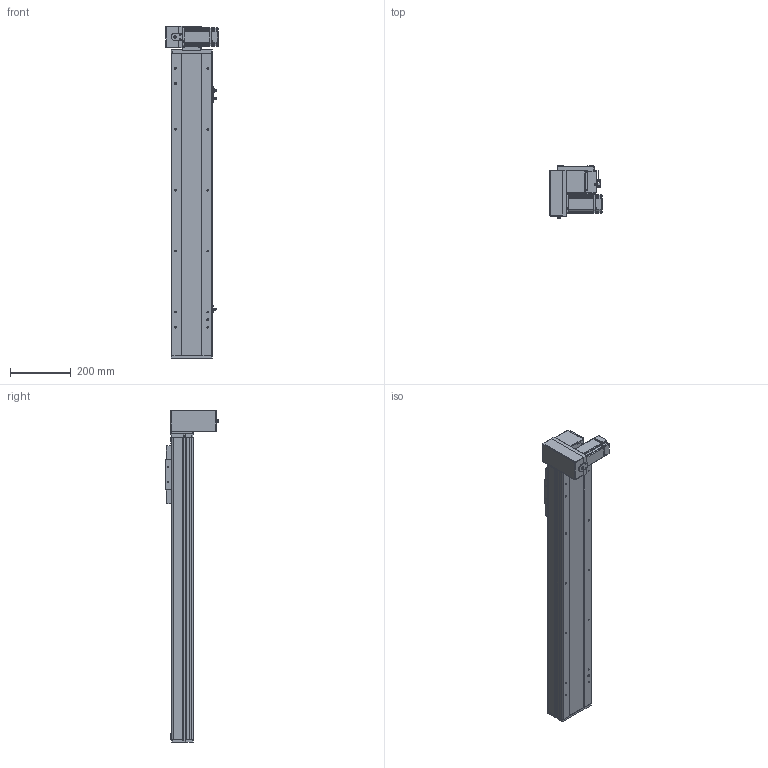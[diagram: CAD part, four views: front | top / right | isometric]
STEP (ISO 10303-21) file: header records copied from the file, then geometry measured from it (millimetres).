
FILE_DESCRIPTION (( 'STEP AP214' ), '1' );
FILE_NAME ('TPE14-L40-700-LD-T40-C4.STEP', '2023-04-12T09:14:36', ( '' ), ( '' ), 'SwSTEP 2.0', 'SolidWorks 2020', '' );
FILE_SCHEMA (( 'AUTOMOTIVE_DESIGN' ));
Length unit declared in the file: millimetre
Products named in the file (10): TPE14-L40-700-LD-T40-C4; 葩璃 pm-t65-672^TPE14-L40-LD-T40-C4; hexagon head bolts-full thread gb_GB_FASTENER_BOLT_STBAB A M5X16-N; 葩璃 TPE14 賑雄殤^TPE14-L40-LD-T40-C4; 葩璃 TPE14-L-002 耜裔ZTMZ-135-04^TPE14-L40-LD-T40-C4; 葩璃 侂狟400W^TPE14-L40-LD-T40-C4; 葩璃 TPE14-L-007 々湍釱MZ-169x88^TPE14-L40-LD-T40-C4_YCB14; 葩璃 TPE14-L-001 菁釱MZ-135-01^TPE14-L40-LD-T40-C4; 葩璃 詩湍75^TPE14-L40-LD-T40-C4; 葩璃 TPT14-L-009 萇儂啣^TPE14-L40-LD-T40-C4_400W
Assembly tree (12 placements, depth 2):
  TPE14-L40-700-LD-T40-C4
    葩璃 TPE14-L-001 菁釱MZ-135-01^TPE14-L40-LD-T40-C4
    葩璃 TPE14-L-002 耜裔ZTMZ-135-04^TPE14-L40-LD-T40-C4  x2
    葩璃 詩湍75^TPE14-L40-LD-T40-C4
    葩璃 TPE14-L-007 々湍釱MZ-169x88^TPE14-L40-LD-T40-C4_YCB14
    葩璃 TPT14-L-009 萇儂啣^TPE14-L40-LD-T40-C4_400W
    葩璃 TPE14 賑雄殤^TPE14-L40-LD-T40-C4
    葩璃 pm-t65-672^TPE14-L40-LD-T40-C4  x3
    葩璃 侂狟400W^TPE14-L40-LD-T40-C4
    hexagon head bolts-full thread gb_GB_FASTENER_BOLT_STBAB A M5X16-N
Bounding box: 172.5 x 171.45 x 1090.5 mm (x, y, z)
Volume: 5779412.9 mm3; surface area: 1173528.7 mm2
Topology: 23 solids, 23 shells, 1404 faces, 3647 edges, 2320 vertices
Faces by surface type: plane 823, cylinder 417, cone 130, bspline 34
Entity records: 37343 total; most frequent: CARTESIAN_POINT 7320, DIRECTION 5968, ORIENTED_EDGE 5794, EDGE_CURVE 2897, AXIS2_PLACEMENT_3D 2022, VECTOR 1924, LINE 1924, VERTEX_POINT 1868
